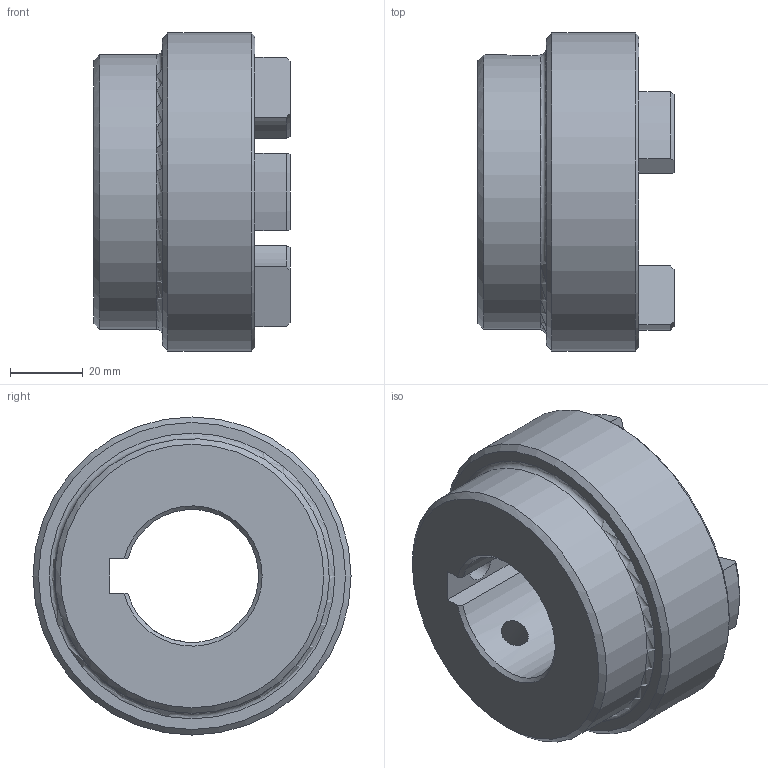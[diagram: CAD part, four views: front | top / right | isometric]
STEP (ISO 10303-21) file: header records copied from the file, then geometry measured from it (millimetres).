
FILE_DESCRIPTION (( 'STEP AP203' ), '1' );
FILE_NAME ('RC3.step', '2024-07-24T12:51:39', ( 'Adlan' ), ( '' ), 'SwSTEP 2.0', 'SolidWorks 2013', '' );
FILE_SCHEMA (( 'CONFIG_CONTROL_DESIGN' ));
Length unit declared in the file: inch
Products named in the file (1): RC3
Bounding box: 53.85 x 87.38 x 87.38 mm (x, y, z)
Volume: 158765.4 mm3; surface area: 30630.3 mm2
Topology: 1 solids, 1 shells, 69 faces, 182 edges, 115 vertices
Faces by surface type: cylinder 26, plane 18, torus 13, cone 12
Full cylindrical faces by diameter (mm): 7.937 x2, 75.438 x1, 87.376 x1
Entity records: 2363 total; most frequent: CARTESIAN_POINT 618, DIRECTION 364, ORIENTED_EDGE 332, EDGE_CURVE 166, AXIS2_PLACEMENT_3D 147, VERTEX_POINT 109, EDGE_LOOP 85, CIRCLE 77
